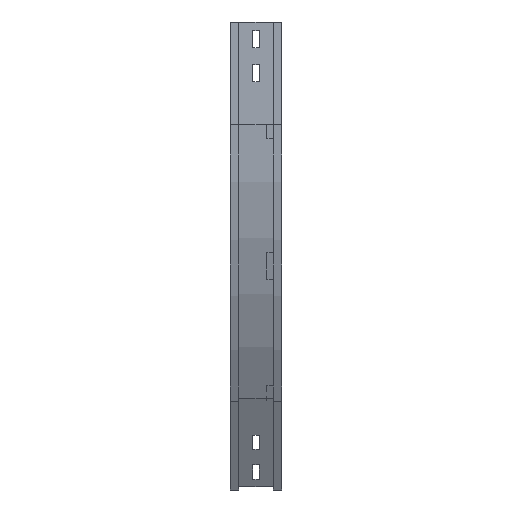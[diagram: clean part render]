
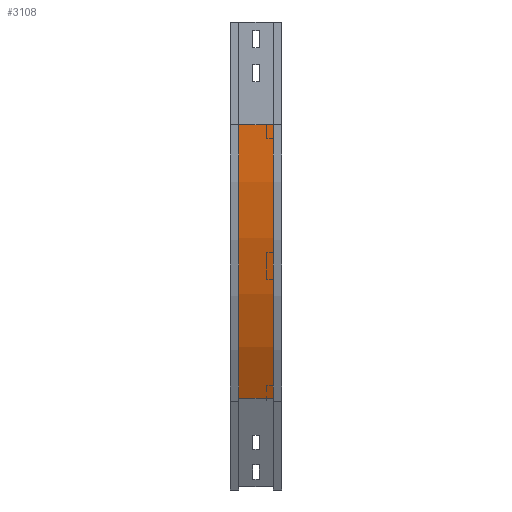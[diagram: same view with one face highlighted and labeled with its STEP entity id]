
A CAD part, left-side view. The second image highlights one B-rep face of the part: STEP entity #3108.
In plain terms, the highlighted cylindrical face has radius 800 mm (diameter 1600 mm), a partial arc.
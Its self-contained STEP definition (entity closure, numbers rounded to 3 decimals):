
#2 = EDGE_LOOP ( 'NONE', ( #3144, #1795, #908, #2195 ) ) ;
#304 = DIRECTION ( 'NONE',  ( 0., -1., 0. ) ) ;
#331 = CARTESIAN_POINT ( 'NONE',  ( 809., 63., -150. ) ) ;
#365 = LINE ( 'NONE', #1937, #1631 ) ;
#623 = DIRECTION ( 'NONE',  ( 0., -1., 0. ) ) ;
#733 = FACE_OUTER_BOUND ( 'NONE', #2, .T. ) ;
#825 = EDGE_CURVE ( 'NONE', #2531, #904, #1386, .T. ) ;
#827 = CARTESIAN_POINT ( 'NONE',  ( 809., 12., -150. ) ) ;
#835 = CIRCLE ( 'NONE', #2441, 800. ) ;
#904 = VERTEX_POINT ( 'NONE', #2685 ) ;
#908 = ORIENTED_EDGE ( 'NONE', *, *, #1550, .T. ) ;
#913 = AXIS2_PLACEMENT_3D ( 'NONE', #1512, #3296, #2557 ) ;
#915 = VERTEX_POINT ( 'NONE', #1347 ) ;
#948 = EDGE_CURVE ( 'NONE', #2283, #904, #2173, .T. ) ;
#1049 = CARTESIAN_POINT ( 'NONE',  ( 116.18, 12., -550. ) ) ;
#1272 = VECTOR ( 'NONE', #1849, 1000. ) ;
#1347 = CARTESIAN_POINT ( 'NONE',  ( 9., 63., -150. ) ) ;
#1375 = CARTESIAN_POINT ( 'NONE',  ( 9., 12., -150. ) ) ;
#1386 = CIRCLE ( 'NONE', #3359, 800. ) ;
#1416 = DIRECTION ( 'NONE',  ( -1., 0., 0. ) ) ;
#1512 = CARTESIAN_POINT ( 'NONE',  ( 809., 0., -150. ) ) ;
#1550 = EDGE_CURVE ( 'NONE', #915, #2283, #835, .T. ) ;
#1631 = VECTOR ( 'NONE', #2975, 1000. ) ;
#1790 = CYLINDRICAL_SURFACE ( 'NONE', #913, 800. ) ;
#1795 = ORIENTED_EDGE ( 'NONE', *, *, #2893, .F. ) ;
#1849 = DIRECTION ( 'NONE',  ( 0., -1., 0. ) ) ;
#1937 = CARTESIAN_POINT ( 'NONE',  ( 9., 12., -150. ) ) ;
#2173 = LINE ( 'NONE', #1049, #1272 ) ;
#2195 = ORIENTED_EDGE ( 'NONE', *, *, #948, .T. ) ;
#2242 = CARTESIAN_POINT ( 'NONE',  ( 116.18, 63., -550. ) ) ;
#2283 = VERTEX_POINT ( 'NONE', #2242 ) ;
#2441 = AXIS2_PLACEMENT_3D ( 'NONE', #331, #623, #1416 ) ;
#2531 = VERTEX_POINT ( 'NONE', #1375 ) ;
#2557 = DIRECTION ( 'NONE',  ( 0., 0., -1. ) ) ;
#2685 = CARTESIAN_POINT ( 'NONE',  ( 116.18, 12., -550. ) ) ;
#2893 = EDGE_CURVE ( 'NONE', #915, #2531, #365, .T. ) ;
#2975 = DIRECTION ( 'NONE',  ( 0., -1., 0. ) ) ;
#3108 = ADVANCED_FACE ( 'NONE', ( #733 ), #1790, .T. ) ;
#3144 = ORIENTED_EDGE ( 'NONE', *, *, #825, .F. ) ;
#3202 = DIRECTION ( 'NONE',  ( -1., 0., 0. ) ) ;
#3296 = DIRECTION ( 'NONE',  ( 0., -1., 0. ) ) ;
#3359 = AXIS2_PLACEMENT_3D ( 'NONE', #827, #304, #3202 ) ;
